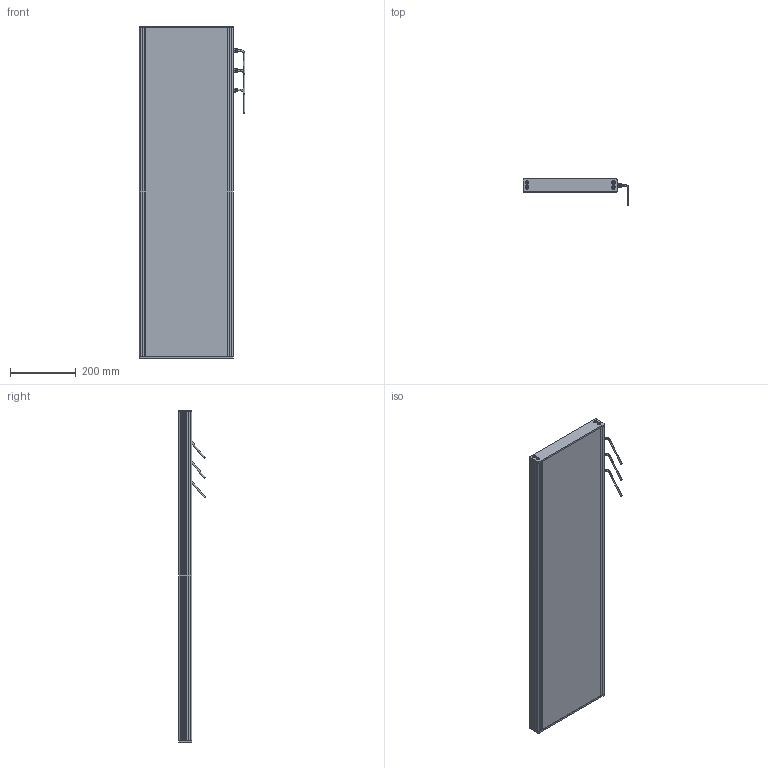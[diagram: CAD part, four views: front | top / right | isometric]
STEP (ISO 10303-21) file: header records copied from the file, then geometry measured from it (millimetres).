
FILE_DESCRIPTION (( 'STEP AP214' ), '1' );
FILE_NAME ('EFFI-BL-250-1000T-3M12.STEP', '2021-07-02T09:54:19', ( '' ), ( '' ), 'SwSTEP 2.0', 'SolidWorks 2021', '' );
FILE_SCHEMA (( 'AUTOMOTIVE_DESIGN' ));
Length unit declared in the file: millimetre
Products named in the file (7): profile modif_lg 99.5 mm; EFFI-BL-250-1000T-3M12; 003776; Pièce2^EFFI-BL-XXX-YYYT + 3 M12; bord fin modif_lg 436.5 mm; cordon_Avec cable
Assembly tree (16 placements, depth 2):
  EFFI-BL-250-1000T-3M12
    bord fin modif_lg 436.5 mm  x2
    profile modif_lg 99.5 mm
    Pièce2^EFFI-BL-XXX-YYYT + 3 M12
    profile modif_lg 99.5 mm
    003776  x8
    cordon_Avec cable  x3
Bounding box: 321.15 x 80.73 x 1010 mm (x, y, z)
Volume: 9950301.2 mm3; surface area: 940160.7 mm2
Topology: 13 solids, 31 shells, 748 faces, 1876 edges, 1201 vertices
Faces by surface type: plane 417, bspline 143, cylinder 136, torus 30, cone 22
Entity records: 16630 total; most frequent: CARTESIAN_POINT 5354, ORIENTED_EDGE 2196, DIRECTION 1926, EDGE_CURVE 1102, VECTOR 802, LINE 802, VERTEX_POINT 724, AXIS2_PLACEMENT_3D 562
